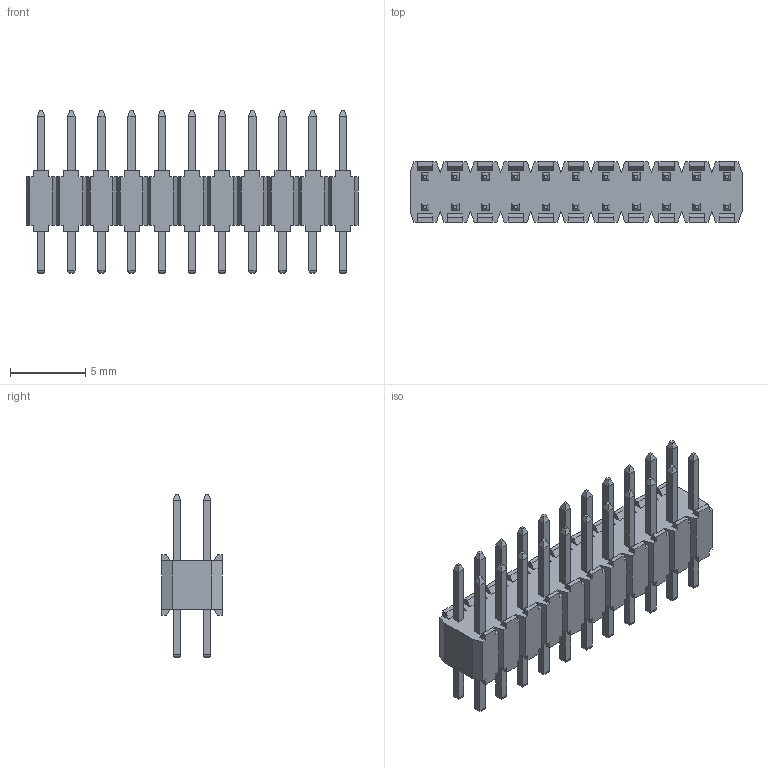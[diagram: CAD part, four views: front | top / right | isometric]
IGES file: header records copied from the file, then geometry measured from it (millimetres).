
Global section: file name: N:\GOLF_VI_2mm_UGII\9514XX_801XX06_AR\951422-8010806-AR.igs; native system: NX V3.0; preprocessor: UGS NX IGES V4.0; date: 20070314.074659; units: millimetre
Bounding box: 22 x 4 x 10.8 mm (x, y, z)
Surface area: 757.1 mm2 (no closed solid volume)
Topology: 0 solids, 0 shells, 642 faces, 3225 edges, 3225 vertices
Faces by surface type: bspline 642
